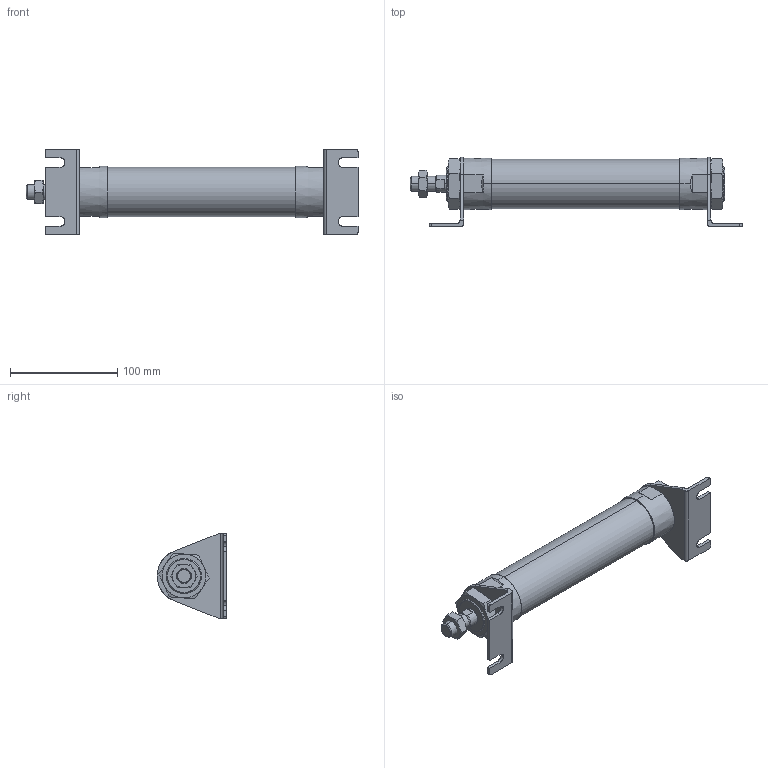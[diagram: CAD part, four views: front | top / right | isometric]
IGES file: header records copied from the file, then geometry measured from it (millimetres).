
Start section: SolidWorks IGES file using analytic representation for surfaces
Global section: file name: C:\Users\Toshiba\Desktop\J#2-40-125-L.IGS; native system: SolidWorks 2014; preprocessor: SolidWorks 2014; author: Toshiba; date: 160310.090625; units: millimetre
Bounding box: 310.2 x 65 x 80 mm (x, y, z)
Surface area: 74650.6 mm2 (no closed solid volume)
Topology: 0 solids, 0 shells, 170 faces, 3118 edges, 3114 vertices
Faces by surface type: bspline 107, revolution 63
